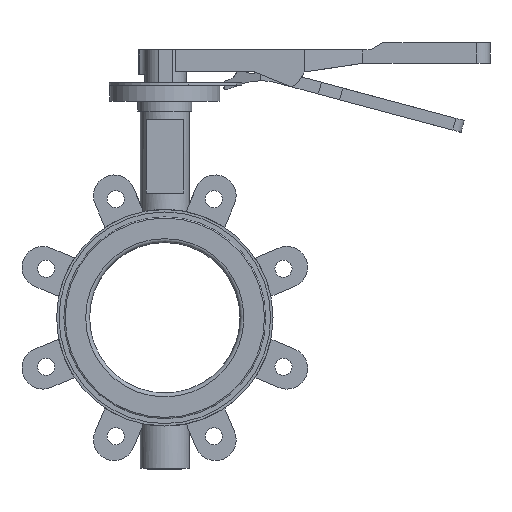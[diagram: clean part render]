
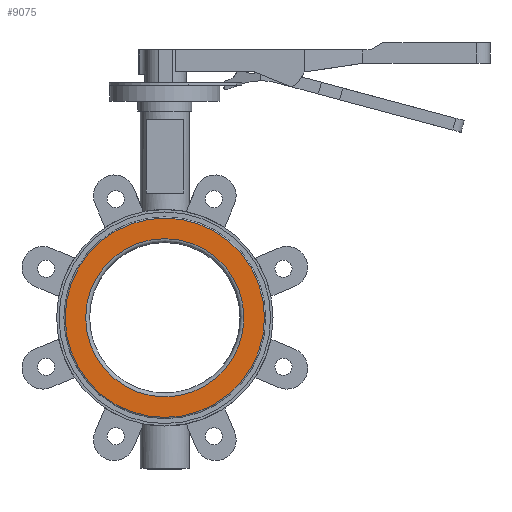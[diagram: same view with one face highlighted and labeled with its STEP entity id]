
A CAD part, front view. The second image highlights one B-rep face of the part: STEP entity #9075.
In plain terms, the highlighted planar face has unit normal (0, -1, 0) as drawn and (-1, 0, 0) by its records, which use the part's own axes.
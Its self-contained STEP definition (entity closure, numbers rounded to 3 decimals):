
#76 = CIRCLE ( 'NONE', #1837, 81.5 ) ;
#561 = CARTESIAN_POINT ( 'NONE',  ( -30., 0., 64.69 ) ) ;
#694 = CARTESIAN_POINT ( 'NONE',  ( -30., 0., 0. ) ) ;
#810 = EDGE_LOOP ( 'NONE', ( #3367 ) ) ;
#1837 = AXIS2_PLACEMENT_3D ( 'NONE', #4171, #8496, #9174 ) ;
#2696 = EDGE_CURVE ( 'NONE', #8482, #8482, #4415, .T. ) ;
#3086 = AXIS2_PLACEMENT_3D ( 'NONE', #4621, #8956, #7469 ) ;
#3367 = ORIENTED_EDGE ( 'NONE', *, *, #2696, .F. ) ;
#3528 = FACE_OUTER_BOUND ( 'NONE', #8625, .T. ) ;
#3858 = FACE_BOUND ( 'NONE', #810, .T. ) ;
#4171 = CARTESIAN_POINT ( 'NONE',  ( -30., 0., 0. ) ) ;
#4307 = DIRECTION ( 'NONE',  ( 1., 0., 0. ) ) ;
#4415 = CIRCLE ( 'NONE', #3086, 64.69 ) ;
#4420 = PLANE ( 'NONE',  #5480 ) ;
#4621 = CARTESIAN_POINT ( 'NONE',  ( -30., 0., 0. ) ) ;
#5480 = AXIS2_PLACEMENT_3D ( 'NONE', #694, #4307, #7944 ) ;
#6556 = EDGE_CURVE ( 'NONE', #7016, #7016, #76, .T. ) ;
#6606 = ORIENTED_EDGE ( 'NONE', *, *, #6556, .T. ) ;
#6972 = CARTESIAN_POINT ( 'NONE',  ( -30., 0., 81.5 ) ) ;
#7016 = VERTEX_POINT ( 'NONE', #6972 ) ;
#7469 = DIRECTION ( 'NONE',  ( 0., 0., 1. ) ) ;
#7944 = DIRECTION ( 'NONE',  ( 0., 0., -1. ) ) ;
#8482 = VERTEX_POINT ( 'NONE', #561 ) ;
#8496 = DIRECTION ( 'NONE',  ( -1., 0., 0. ) ) ;
#8625 = EDGE_LOOP ( 'NONE', ( #6606 ) ) ;
#8956 = DIRECTION ( 'NONE',  ( -1., 0., 0. ) ) ;
#9075 = ADVANCED_FACE ( 'NONE', ( #3858, #3528 ), #4420, .F. ) ;
#9174 = DIRECTION ( 'NONE',  ( 0., 0., 1. ) ) ;
